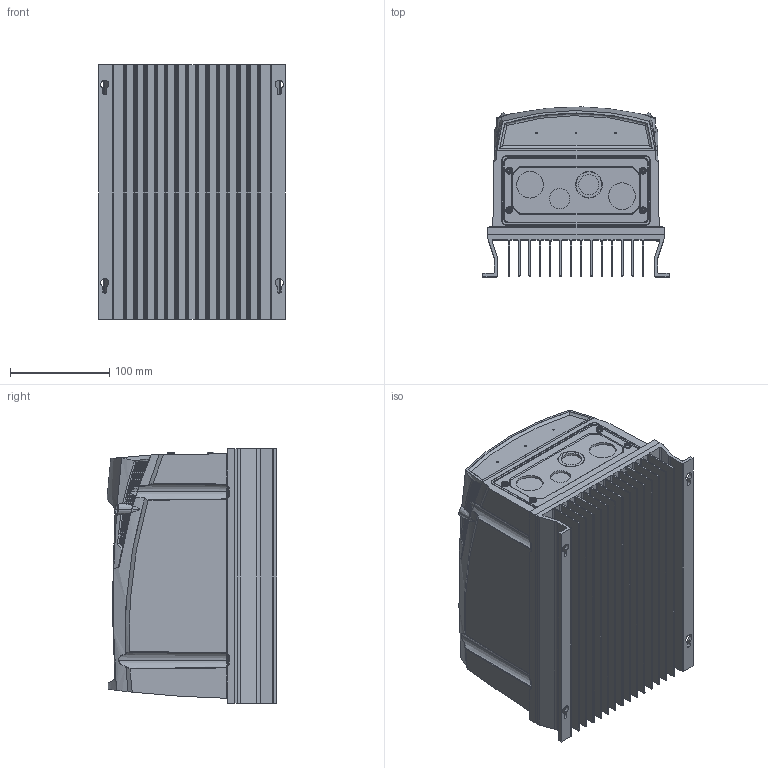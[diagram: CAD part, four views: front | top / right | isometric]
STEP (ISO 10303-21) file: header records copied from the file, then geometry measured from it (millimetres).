
FILE_DESCRIPTION (( 'STEP AP203' ), '1' );
FILE_NAME ('P2.IP66.SIZE2.Gen2.OLED.NonSwitched-Closed (ENVELOPE) (4-Hole).STEP', '2022-08-03T11:09:28', ( '' ), ( '' ), 'SwSTEP 2.0', 'SolidWorks 2022', '' );
FILE_SCHEMA (( 'CONFIG_CONTROL_DESIGN' ));
Products named in the file (1): P2.IP66.SIZE2.Gen2.OLED.NonSwitched-Closed (ENVELOPE) (4-Hole)
Bounding box: 188 x 171.36 x 257.09 mm (x, y, z)
Volume: 5266884.2 mm3; surface area: 508246.1 mm2
Topology: 1 solids, 9 shells, 2231 faces, 6633 edges, 4433 vertices
Faces by surface type: cylinder 746, sphere 650, plane 413, bspline 220, cone 136, torus 66
Entity records: 85744 total; most frequent: CARTESIAN_POINT 34701, ORIENTED_EDGE 11188, DIRECTION 9831, EDGE_CURVE 5594, AXIS2_PLACEMENT_3D 4187, VERTEX_POINT 3757, EDGE_LOOP 2551, CIRCLE 2209
